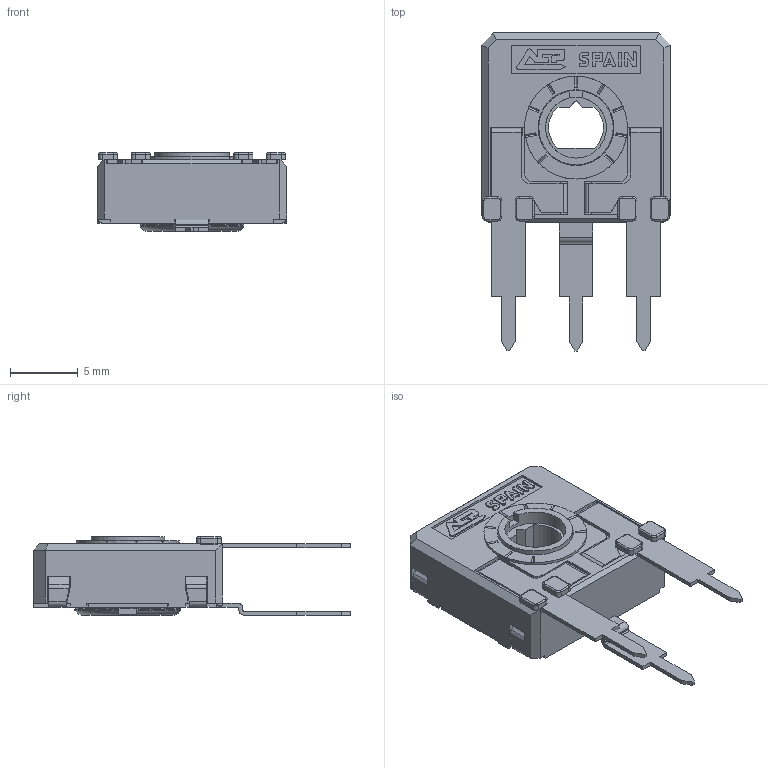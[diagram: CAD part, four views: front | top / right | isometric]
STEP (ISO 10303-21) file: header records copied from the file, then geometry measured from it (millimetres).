
FILE_DESCRIPTION(/* description */ (''),/* implementation_level */ '2;1');
FILE_NAME(/* name */ '\\SERVERACP\intercambio\Ignacio Santa Cecilia\Nueva WEB 2025\CA14 - CE14\CA14KHA5.stp',/* time_stamp */ '2025-06-06T10:47:12+02:00',/* author */ ('CEM'),/* organization */ (''),/* preprocessor_version */ 'ST-DEVELOPER v17',/* originating_system */ 'Autodesk Inventor 2018',/* authorisation */ '');
FILE_SCHEMA (('AUTOMOTIVE_DESIGN { 1 0 10303 214 3 1 1 }'));
Length unit declared in the file: millimetre
Products named in the file (1): CARCASA CA14 PGA
Bounding box: 14 x 23.5 x 5.8 mm (x, y, z)
Volume: 536.6 mm3; surface area: 1496.8 mm2
Topology: 1 solids, 1 shells, 669 faces, 1890 edges, 1217 vertices
Faces by surface type: plane 497, cylinder 135, torus 23, bspline 8, cone 6
Full cylindrical faces by diameter (mm): 4.5 x1, 5.5 x1, 5.6 x1, 5.752 x1, 6.8 x1, 7.6 x1
Entity records: 21849 total; most frequent: CARTESIAN_POINT 4074, ORIENTED_EDGE 3780, DIRECTION 3524, EDGE_CURVE 1890, LINE 1490, VECTOR 1490, VERTEX_POINT 1217, AXIS2_PLACEMENT_3D 1017
